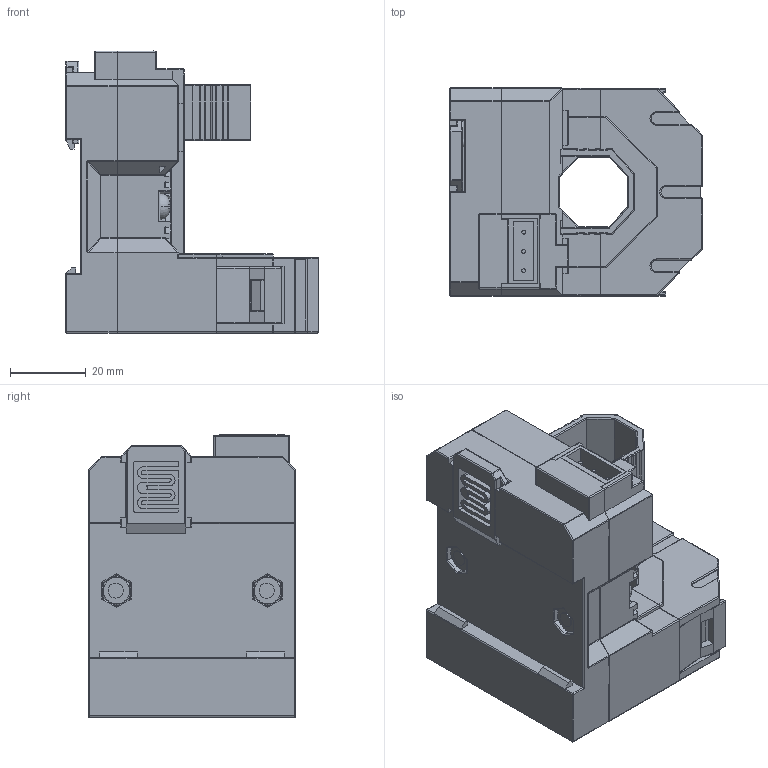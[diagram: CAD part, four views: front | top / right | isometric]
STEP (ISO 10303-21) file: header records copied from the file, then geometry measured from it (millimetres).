
FILE_DESCRIPTION(('CoCreate Modeling STEP Export'),'2;1');
FILE_NAME('AP_APR xxx_Bxxx.stp','2014-03-17T11:39:28',(''),(''),'CoCreate Modeling STEP processor for AP214 (Solid Model)','CoCreate Modeling 17.00A 17-Jun-2010 (C) Parametric Technology GmbH','');
FILE_SCHEMA(('AUTOMOTIVE_DESIGN { 1 0 10303 214 1 1 1 1 }'));
Length unit declared in the file: millimetre
Products named in the file (2): APR_xxx_Bxxx
Assembly tree (1 placements, depth 2):
  APR_xxx_Bxxx
    APR_xxx_Bxxx
Bounding box: 67 x 55 x 74.75 mm (x, y, z)
Volume: 131116.3 mm3; surface area: 30357.4 mm2
Topology: 1 solids, 2 shells, 1262 faces, 3285 edges, 1943 vertices
Faces by surface type: plane 633, cylinder 474, sphere 94, bspline 23, torus 22, cone 16
Entity records: 39814 total; most frequent: CARTESIAN_POINT 9879, ORIENTED_EDGE 6394, DIRECTION 5694, EDGE_CURVE 3196, VECTOR 2182, LINE 2182, VERTEX_POINT 1943, AXIS2_PLACEMENT_3D 1756
